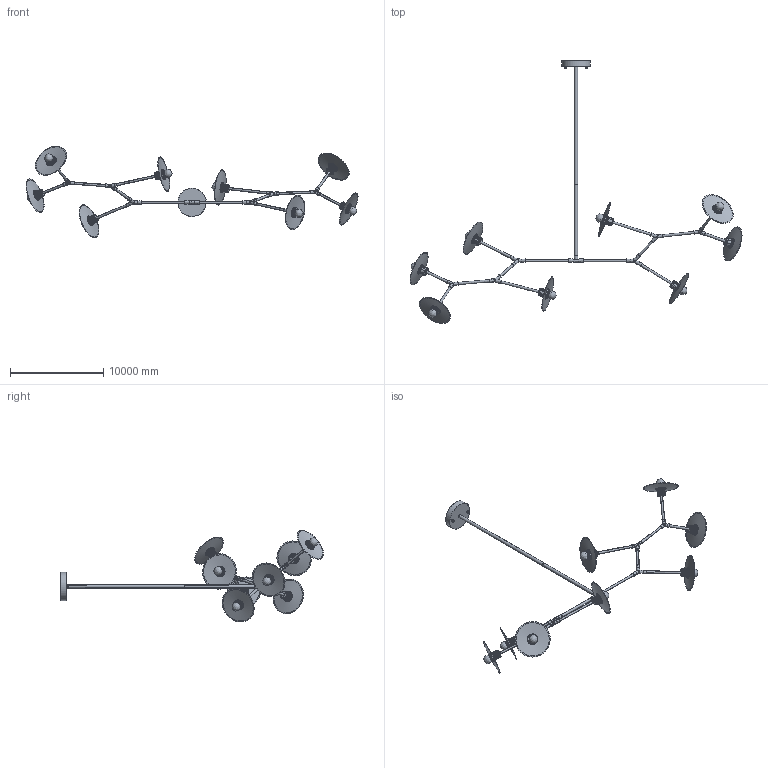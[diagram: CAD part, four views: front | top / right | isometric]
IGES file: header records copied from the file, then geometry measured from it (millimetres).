
Global section: file name: Armature Chandelier-8heads; native system: AutoCAD 2022 - 简体中文 (Simplified Chinese),62HAuto; preprocessor: desk Translation Framework DWG producer (atf_dwg_producer); organization: unknown; date: 20251222.160909; units: inch
Bounding box: 35607.6 x 28209.98 x 9854.68 mm (x, y, z)
Volume: 11046011873.5 mm3; surface area: 493876707.8 mm2
Topology: 74 solids, 74 shells, 501 faces, 1059 edges, 747 vertices
Faces by surface type: bspline 501
